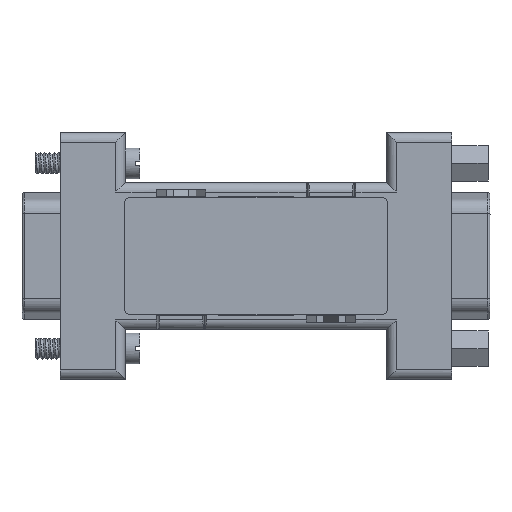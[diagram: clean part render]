
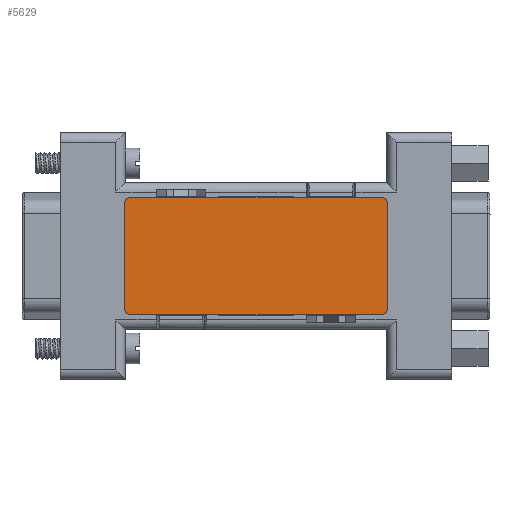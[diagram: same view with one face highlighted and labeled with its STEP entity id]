
A CAD part, front view. The second image highlights one B-rep face of the part: STEP entity #5629.
In plain terms, the highlighted planar face has unit normal (0, -1, 0) as drawn and (0, 1, 0) by its records, which use the part's own axes.
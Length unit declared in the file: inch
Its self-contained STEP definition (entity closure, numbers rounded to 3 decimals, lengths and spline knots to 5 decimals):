
#143 = ORIENTED_EDGE ( 'NONE', *, *, #16959, .T. ) ;
#489 = FACE_OUTER_BOUND ( 'NONE', #18493, .T. ) ;
#650 = DIRECTION ( 'NONE',  ( 0., 1., 0. ) ) ;
#872 = VERTEX_POINT ( 'NONE', #2731 ) ;
#1221 = EDGE_CURVE ( 'NONE', #12788, #872, #13201, .T. ) ;
#1468 = CIRCLE ( 'NONE', #4616, 0.03 ) ;
#1480 = CARTESIAN_POINT ( 'NONE',  ( -0.67, 0.01, -0.31 ) ) ;
#1517 = CIRCLE ( 'NONE', #6421, 0.03 ) ;
#1608 = DIRECTION ( 'NONE',  ( 0., 0., 1. ) ) ;
#1636 = EDGE_CURVE ( 'NONE', #17433, #18098, #19659, .T. ) ;
#1811 = CARTESIAN_POINT ( 'NONE',  ( -0.67, 0.01, 0.28 ) ) ;
#2098 = EDGE_CURVE ( 'NONE', #18098, #12788, #21595, .T. ) ;
#2643 = CARTESIAN_POINT ( 'NONE',  ( -0.67, 0.01, 0.31 ) ) ;
#2731 = CARTESIAN_POINT ( 'NONE',  ( 0.7, 0.01, -0.28 ) ) ;
#2988 = ORIENTED_EDGE ( 'NONE', *, *, #19984, .T. ) ;
#2992 = ORIENTED_EDGE ( 'NONE', *, *, #15769, .T. ) ;
#3203 = CARTESIAN_POINT ( 'NONE',  ( 0.67, 0.01, -0.31 ) ) ;
#3272 = DIRECTION ( 'NONE',  ( -1., 0., 0. ) ) ;
#3612 = DIRECTION ( 'NONE',  ( 0., 0., 1. ) ) ;
#4040 = ORIENTED_EDGE ( 'NONE', *, *, #2098, .T. ) ;
#4418 = DIRECTION ( 'NONE',  ( 1., 0., 0. ) ) ;
#4616 = AXIS2_PLACEMENT_3D ( 'NONE', #7401, #19777, #9185 ) ;
#4734 = LINE ( 'NONE', #1480, #13631 ) ;
#5163 = VERTEX_POINT ( 'NONE', #22997 ) ;
#5629 = ADVANCED_FACE ( 'NONE', ( #489 ), #10475, .T. ) ;
#5660 = CARTESIAN_POINT ( 'NONE',  ( 0.7, 0.01, 0.28 ) ) ;
#6421 = AXIS2_PLACEMENT_3D ( 'NONE', #11272, #650, #13074 ) ;
#6801 = CARTESIAN_POINT ( 'NONE',  ( 0.67, 0.01, 0.28 ) ) ;
#7188 = VERTEX_POINT ( 'NONE', #8313 ) ;
#7300 = DIRECTION ( 'NONE',  ( 0., 0., 1. ) ) ;
#7401 = CARTESIAN_POINT ( 'NONE',  ( -0.67, 0.01, -0.28 ) ) ;
#7419 = ORIENTED_EDGE ( 'NONE', *, *, #1636, .T. ) ;
#8313 = CARTESIAN_POINT ( 'NONE',  ( -0.67, 0.01, -0.31 ) ) ;
#8435 = EDGE_CURVE ( 'NONE', #872, #10997, #1517, .T. ) ;
#8610 = DIRECTION ( 'NONE',  ( 0., 0., 1. ) ) ;
#9185 = DIRECTION ( 'NONE',  ( 0., 0., 1. ) ) ;
#10043 = ORIENTED_EDGE ( 'NONE', *, *, #1221, .T. ) ;
#10475 = PLANE ( 'NONE',  #10982 ) ;
#10982 = AXIS2_PLACEMENT_3D ( 'NONE', #21082, #12243, #1608 ) ;
#10997 = VERTEX_POINT ( 'NONE', #3203 ) ;
#11272 = CARTESIAN_POINT ( 'NONE',  ( 0.67, 0.01, -0.28 ) ) ;
#12243 = DIRECTION ( 'NONE',  ( 0., 1., 0. ) ) ;
#12788 = VERTEX_POINT ( 'NONE', #5660 ) ;
#13074 = DIRECTION ( 'NONE',  ( 0., 0., -1. ) ) ;
#13201 = LINE ( 'NONE', #21449, #22052 ) ;
#13631 = VECTOR ( 'NONE', #3272, 39.37008 ) ;
#13770 = CARTESIAN_POINT ( 'NONE',  ( 0.67, 0.01, 0.31 ) ) ;
#13914 = CIRCLE ( 'NONE', #14262, 0.03 ) ;
#13996 = CARTESIAN_POINT ( 'NONE',  ( -0.67, 0.01, 0.31 ) ) ;
#14257 = DIRECTION ( 'NONE',  ( 0., 1., 0. ) ) ;
#14262 = AXIS2_PLACEMENT_3D ( 'NONE', #1811, #14257, #3612 ) ;
#15002 = VECTOR ( 'NONE', #4418, 39.37008 ) ;
#15769 = EDGE_CURVE ( 'NONE', #10997, #7188, #4734, .T. ) ;
#16108 = DIRECTION ( 'NONE',  ( 0., 0., -1. ) ) ;
#16137 = CARTESIAN_POINT ( 'NONE',  ( -0.7, 0.01, -0.28 ) ) ;
#16669 = ORIENTED_EDGE ( 'NONE', *, *, #8435, .T. ) ;
#16959 = EDGE_CURVE ( 'NONE', #5163, #17433, #13914, .T. ) ;
#17433 = VERTEX_POINT ( 'NONE', #13996 ) ;
#17536 = VECTOR ( 'NONE', #7300, 39.37008 ) ;
#18069 = LINE ( 'NONE', #16137, #17536 ) ;
#18098 = VERTEX_POINT ( 'NONE', #13770 ) ;
#18493 = EDGE_LOOP ( 'NONE', ( #4040, #10043, #16669, #2992, #21832, #2988, #143, #7419 ) ) ;
#19210 = DIRECTION ( 'NONE',  ( 0., 1., 0. ) ) ;
#19219 = EDGE_CURVE ( 'NONE', #7188, #19299, #1468, .T. ) ;
#19299 = VERTEX_POINT ( 'NONE', #20038 ) ;
#19659 = LINE ( 'NONE', #2643, #15002 ) ;
#19777 = DIRECTION ( 'NONE',  ( 0., 1., 0. ) ) ;
#19984 = EDGE_CURVE ( 'NONE', #19299, #5163, #18069, .T. ) ;
#20038 = CARTESIAN_POINT ( 'NONE',  ( -0.7, 0.01, -0.28 ) ) ;
#21082 = CARTESIAN_POINT ( 'NONE',  ( 0.67, 0.01, 0.28 ) ) ;
#21237 = AXIS2_PLACEMENT_3D ( 'NONE', #6801, #19210, #8610 ) ;
#21449 = CARTESIAN_POINT ( 'NONE',  ( 0.7, 0.01, -0.28 ) ) ;
#21595 = CIRCLE ( 'NONE', #21237, 0.03 ) ;
#21832 = ORIENTED_EDGE ( 'NONE', *, *, #19219, .T. ) ;
#22052 = VECTOR ( 'NONE', #16108, 39.37008 ) ;
#22997 = CARTESIAN_POINT ( 'NONE',  ( -0.7, 0.01, 0.28 ) ) ;
